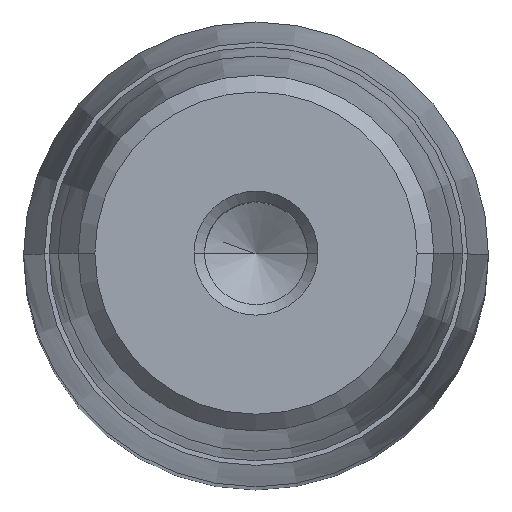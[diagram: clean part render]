
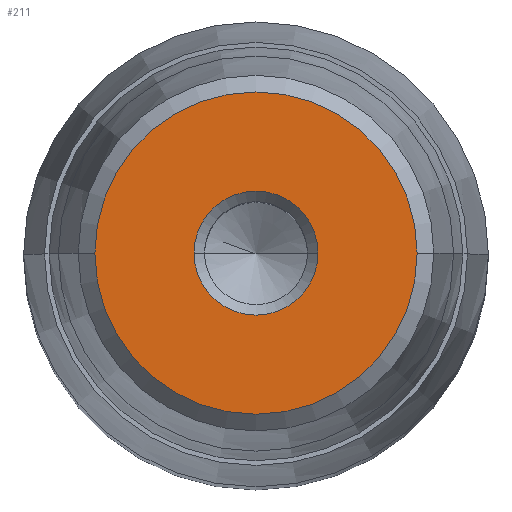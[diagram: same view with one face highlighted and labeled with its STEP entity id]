
A CAD part, top view. The second image highlights one B-rep face of the part: STEP entity #211.
In plain terms, the highlighted planar face has unit normal (0, 0, 1).
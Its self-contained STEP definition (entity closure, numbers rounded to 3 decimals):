
#136=CARTESIAN_POINT('Axis2P3D Location',(0.,0.,48.)) ;
#140=CARTESIAN_POINT('Vertex',(-4.,0.,48.)) ;
#142=CARTESIAN_POINT('Vertex',(4.,0.,48.)) ;
#179=CARTESIAN_POINT('Axis2P3D Location',(0.,4.,48.)) ;
#184=CARTESIAN_POINT('Axis2P3D Location',(0.,0.,48.)) ;
#188=CARTESIAN_POINT('Vertex',(-10.4,0.,48.)) ;
#190=CARTESIAN_POINT('Vertex',(10.4,0.,48.)) ;
#193=CARTESIAN_POINT('Axis2P3D Location',(0.,0.,48.)) ;
#202=CARTESIAN_POINT('Axis2P3D Location',(0.,0.,48.)) ;
#137=DIRECTION('Axis2P3D Direction',(0.,-0.,1.)) ;
#180=DIRECTION('Axis2P3D Direction',(0.,0.,-1.)) ;
#181=DIRECTION('Axis2P3D XDirection',(-1.,0.,0.)) ;
#185=DIRECTION('Axis2P3D Direction',(0.,0.,-1.)) ;
#194=DIRECTION('Axis2P3D Direction',(0.,0.,-1.)) ;
#203=DIRECTION('Axis2P3D Direction',(0.,0.,-1.)) ;
#138=AXIS2_PLACEMENT_3D('Circle Axis2P3D',#136,#137,$) ;
#182=AXIS2_PLACEMENT_3D('Plane Axis2P3D',#179,#180,#181) ;
#186=AXIS2_PLACEMENT_3D('Circle Axis2P3D',#184,#185,$) ;
#195=AXIS2_PLACEMENT_3D('Circle Axis2P3D',#193,#194,$) ;
#204=AXIS2_PLACEMENT_3D('Circle Axis2P3D',#202,#203,$) ;
#199=ORIENTED_EDGE('',*,*,#192,.F.) ;
#200=ORIENTED_EDGE('',*,*,#197,.F.) ;
#208=ORIENTED_EDGE('',*,*,#206,.T.) ;
#209=ORIENTED_EDGE('',*,*,#144,.T.) ;
#210=FACE_BOUND('',#207,.T.) ;
#211=ADVANCED_FACE('722-30x140x173',(#201,#210),#183,.F.) ;
#139=CIRCLE('generated circle',#138,4.) ;
#187=CIRCLE('generated circle',#186,10.4) ;
#196=CIRCLE('generated circle',#195,10.4) ;
#205=CIRCLE('generated circle',#204,4.) ;
#144=EDGE_CURVE('',#141,#143,#139,.F.) ;
#192=EDGE_CURVE('',#189,#191,#187,.T.) ;
#197=EDGE_CURVE('',#191,#189,#196,.T.) ;
#206=EDGE_CURVE('',#143,#141,#205,.T.) ;
#198=EDGE_LOOP('',(#199,#200)) ;
#207=EDGE_LOOP('',(#208,#209)) ;
#201=FACE_OUTER_BOUND('',#198,.T.) ;
#183=PLANE('Plane',#182) ;
#141=VERTEX_POINT('',#140) ;
#143=VERTEX_POINT('',#142) ;
#189=VERTEX_POINT('',#188) ;
#191=VERTEX_POINT('',#190) ;
